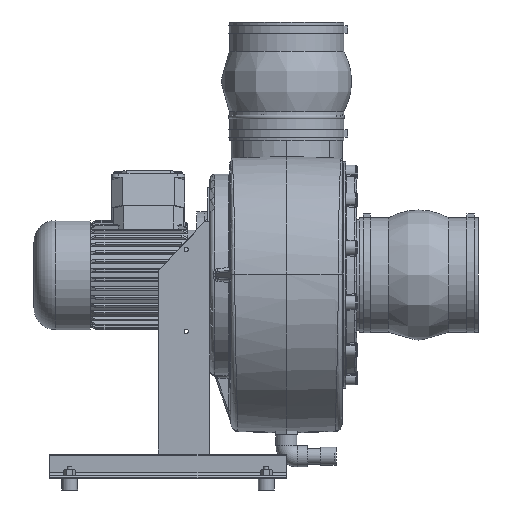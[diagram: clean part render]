
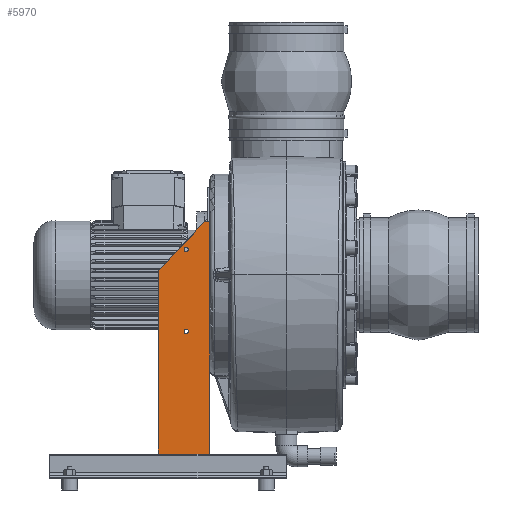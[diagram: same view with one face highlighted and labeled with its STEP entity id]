
A CAD part, left-side view. The second image highlights one B-rep face of the part: STEP entity #5970.
In plain terms, the highlighted planar face has unit normal (-1, 0, 0).
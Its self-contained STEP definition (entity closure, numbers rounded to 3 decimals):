
#5970 = ADVANCED_FACE( '', ( #12650, #12651, #12652 ), #12653, .T. );
#12650 = FACE_BOUND( '', #40313, .T. );
#12651 = FACE_BOUND( '', #40314, .T. );
#12652 = FACE_OUTER_BOUND( '', #40315, .T. );
#12653 = PLANE( '', #40316 );
#40313 = EDGE_LOOP( '', ( #68649 ) );
#40314 = EDGE_LOOP( '', ( #68650 ) );
#40315 = EDGE_LOOP( '', ( #68651, #68652, #68653, #68654, #68655 ) );
#40316 = AXIS2_PLACEMENT_3D( '', #68656, #68657, #68658 );
#68649 = ORIENTED_EDGE( '', *, *, #85138, .T. );
#68650 = ORIENTED_EDGE( '', *, *, #85139, .T. );
#68651 = ORIENTED_EDGE( '', *, *, #83619, .F. );
#68652 = ORIENTED_EDGE( '', *, *, #85140, .F. );
#68653 = ORIENTED_EDGE( '', *, *, #80757, .T. );
#68654 = ORIENTED_EDGE( '', *, *, #85141, .T. );
#68655 = ORIENTED_EDGE( '', *, *, #85142, .F. );
#68656 = CARTESIAN_POINT( '', ( -107., 65., -366. ) );
#68657 = DIRECTION( '', ( -1., 0., 0. ) );
#68658 = DIRECTION( '', ( 0., 0., 1. ) );
#80757 = EDGE_CURVE( '', #88193, #88205, #88207, .T. );
#83619 = EDGE_CURVE( '', #92690, #92691, #92692, .T. );
#85138 = EDGE_CURVE( '', #94735, #94735, #94736, .T. );
#85139 = EDGE_CURVE( '', #94737, #94737, #94738, .T. );
#85140 = EDGE_CURVE( '', #88193, #92690, #94739, .T. );
#85141 = EDGE_CURVE( '', #88205, #94740, #94741, .T. );
#85142 = EDGE_CURVE( '', #92691, #94740, #94742, .T. );
#88193 = VERTEX_POINT( '', #102284 );
#88205 = VERTEX_POINT( '', #102302 );
#88207 = LINE( '', #102305, #102306 );
#92690 = VERTEX_POINT( '', #120220 );
#92691 = VERTEX_POINT( '', #120221 );
#92692 = LINE( '', #120222, #120223 );
#94735 = VERTEX_POINT( '', #128357 );
#94736 = CIRCLE( '', #128358, 2.75 );
#94737 = VERTEX_POINT( '', #128359 );
#94738 = CIRCLE( '', #128360, 2.75 );
#94739 = LINE( '', #128361, #128362 );
#94740 = VERTEX_POINT( '', #128363 );
#94741 = LINE( '', #128364, #128365 );
#94742 = LINE( '', #128366, #128367 );
#102284 = CARTESIAN_POINT( '', ( -107., 65., -366. ) );
#102302 = CARTESIAN_POINT( '', ( -107., 0., -366. ) );
#102305 = CARTESIAN_POINT( '', ( -107., 65., -366. ) );
#102306 = VECTOR( '', #134289, 1000. );
#120220 = CARTESIAN_POINT( '', ( -107., 65., -104.1 ) );
#120221 = CARTESIAN_POINT( '', ( -107., 6.72, -43. ) );
#120222 = CARTESIAN_POINT( '', ( -107., 195.804, -241.233 ) );
#120223 = VECTOR( '', #137406, 1000. );
#128357 = CARTESIAN_POINT( '', ( -107., 30., -75.25 ) );
#128358 = AXIS2_PLACEMENT_3D( '', #138850, #138851, #138852 );
#128359 = CARTESIAN_POINT( '', ( -107., 30., -178.25 ) );
#128360 = AXIS2_PLACEMENT_3D( '', #138853, #138854, #138855 );
#128361 = CARTESIAN_POINT( '', ( -107., 65., -366. ) );
#128362 = VECTOR( '', #138856, 1000. );
#128363 = CARTESIAN_POINT( '', ( -107., 0., -43. ) );
#128364 = CARTESIAN_POINT( '', ( -107., 0., -366. ) );
#128365 = VECTOR( '', #138857, 1000. );
#128366 = CARTESIAN_POINT( '', ( -107., 428.925, -43. ) );
#128367 = VECTOR( '', #138858, 1000. );
#134289 = DIRECTION( '', ( 0., -1., 0. ) );
#137406 = DIRECTION( '', ( 0., -0.69, 0.724 ) );
#138850 = CARTESIAN_POINT( '', ( -107., 30., -78. ) );
#138851 = DIRECTION( '', ( 1., 0., 0. ) );
#138852 = DIRECTION( '', ( 0., 0., 1. ) );
#138853 = CARTESIAN_POINT( '', ( -107., 30., -181. ) );
#138854 = DIRECTION( '', ( 1., 0., 0. ) );
#138855 = DIRECTION( '', ( 0., 0., 1. ) );
#138856 = DIRECTION( '', ( 0., 0., 1. ) );
#138857 = DIRECTION( '', ( 0., 0., 1. ) );
#138858 = DIRECTION( '', ( 0., -1., 0. ) );
